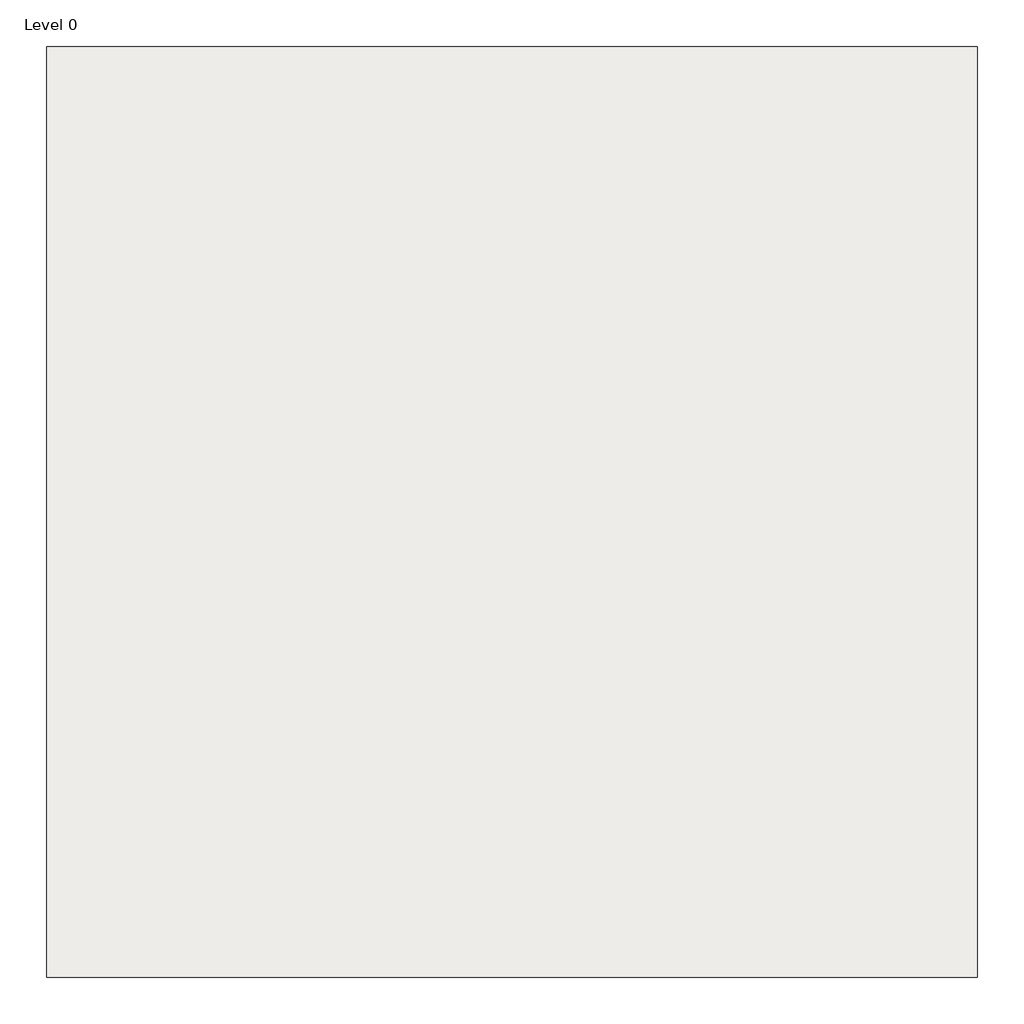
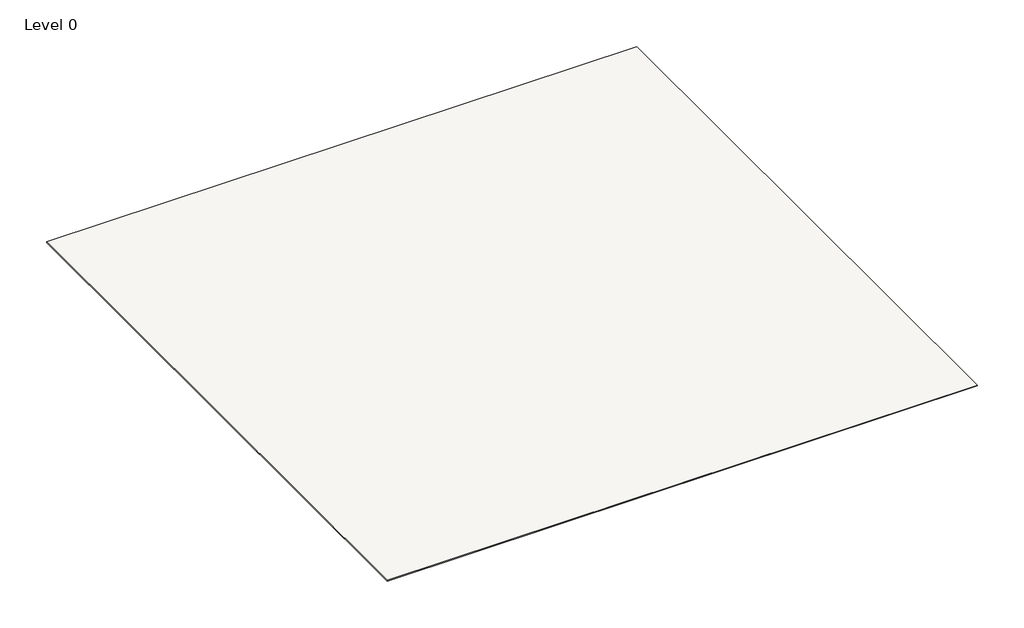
# One storey: 1 covering.
"""IFC4 building model written with IfcOpenShell, lengths in millimetres."""

from ifc_helpers import new_model, si_unit, origin, origin_with_axes, place, context, project, spatial, polyline, outline, extrude, element, save

model = new_model("IFC4")

# Units and contexts
model_context = context("Model", 3, world=origin())
ifc_project = project(units=[si_unit("LENGTHUNIT", "METRE", prefix="MILLI")], contexts=[model_context])

# Site, building, storey
site = spatial("IfcSite", under=ifc_project)
building = spatial("IfcBuilding", under=site)
storey = spatial("IfcBuildingStorey", under=building, Name="Level 0", Elevation=0.0)

# Covering
placement = place(None, origin())
element("IfcCovering", 1, ObjectType="NBS_DeltaMembranes_GeocompositeStuddedSheet_Delta-MSDrain", at=placement, inside=storey, context=model_context, shape_type="SweptSolid", body=[
    extrude(outline(polyline([(4387.8819039, 3529.3022109), (4387.8819039, 6029.3022109), (6887.8819039, 6029.3022109), (6887.8819039, 3529.3022109), (4387.8819039, 3529.3022109)])), origin_with_axes(), (0.0, 0.0, 1.0), 4.0),
])

save(model, "model.ifc")
